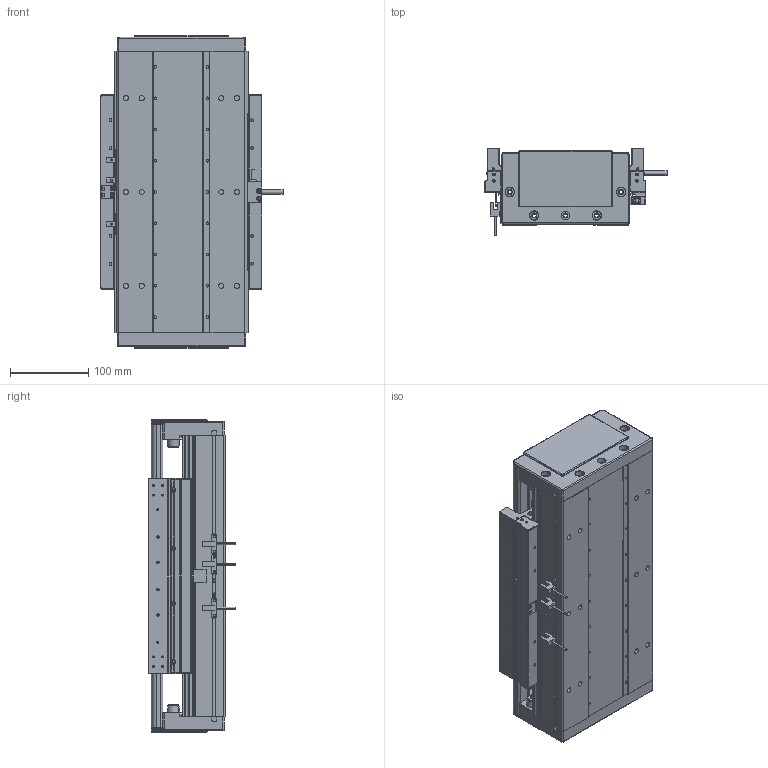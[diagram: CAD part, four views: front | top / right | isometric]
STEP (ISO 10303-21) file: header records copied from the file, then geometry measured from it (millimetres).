
FILE_DESCRIPTION (( 'STEP AP203' ), '1' );
FILE_NAME ('DA-C165-C3-T60-C010-0.2 直线电机.STEP', '2023-06-13T08:37:01', ( '微软用户' ), ( '微软中国' ), 'SwSTEP 2.0', 'SolidWorks 2019', '' );
FILE_SCHEMA (( 'CONFIG_CONTROL_DESIGN' ));
Length unit declared in the file: millimetre
Products named in the file (15): 复件 六角薄螺母 M3^DA-C165-C3-T-C010-0.2-N 直线电机_GB_FASTENER_NUT_STNAB M3-C; 复件 CU165 底座^IU-CU165-L 底座导轨_L360; 复件 DA95-HXJ-00 缓冲橡胶^DA-C165-C3-T-C010-0.2-N 直线电机; 葩璃 CKM03-W075-C1C2-TP-3.0^DA-C165-C3-T-C010-0.2-N 眻盄萇儂; 复件 DA165-DG-H-N-00 端盖^DA-C165-C3-T-C010-0.2-N 直线电机; 葩璃 PM-T45^DA-C165-C3-T-C010-0.2-N 眻盄萇儂; 葩璃 CKM01-W075-TRL^DA-C165-C3-T-C010-0.2-N 眻盄萇儂; 葩璃 DA95-GT-T-00^IU-CU165-L 菁釱絳寢_T; 复件 DMA-010-0.2 读数头^DA-C165-C3-T-C010-0.2-N 直线电机; 复件 DA165-T-002-00 盖板^DA-C165-C3-T-C010-0.2-N 直线电机_0840-002-00; IU-CU165-L 菁釱絳寢; 复件 XD-U-02L 磁栅尺^DA-C165-C3-T-C010-0.2-N 直线电机_T; 复件 DA165-GYP-00 光电感应片^DA-C165-C3-T-C010-0.2-N 直线电机; DA-C165-C3-T60-C010-0.2 眻盄萇儂; 珨极趙賑雄怢啣C3-wf
Assembly tree (30 placements, depth 3):
  DA-C165-C3-T60-C010-0.2 眻盄萇儂
    IU-CU165-L 菁釱絳寢
      复件 CU165 底座^IU-CU165-L 底座导轨_L360
      葩璃 DA95-GT-T-00^IU-CU165-L 菁釱絳寢_T  x4
    复件 DA165-DG-H-N-00 端盖^DA-C165-C3-T-C010-0.2-N 直线电机  x2
    复件 DA95-HXJ-00 缓冲橡胶^DA-C165-C3-T-C010-0.2-N 直线电机  x4
    复件 DA165-T-002-00 盖板^DA-C165-C3-T-C010-0.2-N 直线电机_0840-002-00
    复件 XD-U-02L 磁栅尺^DA-C165-C3-T-C010-0.2-N 直线电机_T
    葩璃 PM-T45^DA-C165-C3-T-C010-0.2-N 眻盄萇儂  x3
    葩璃 CKM01-W075-TRL^DA-C165-C3-T-C010-0.2-N 眻盄萇儂
    复件 DA165-GYP-00 光电感应片^DA-C165-C3-T-C010-0.2-N 直线电机
    复件 DMA-010-0.2 读数头^DA-C165-C3-T-C010-0.2-N 直线电机
    葩璃 CKM03-W075-C1C2-TP-3.0^DA-C165-C3-T-C010-0.2-N 眻盄萇儂
    复件 六角薄螺母 M3^DA-C165-C3-T-C010-0.2-N 直线电机_GB_FASTENER_NUT_STNAB M3-C  x8
    珨极趙賑雄怢啣C3-wf
Bounding box: 233 x 111.45 x 400 mm (x, y, z)
Volume: 4708454 mm3; surface area: 1095898 mm2
Topology: 68 solids, 118 shells, 3211 faces, 8208 edges, 5018 vertices
Faces by surface type: cylinder 1450, plane 1151, cone 552, torus 54, sphere 4
Entity records: 87741 total; most frequent: CARTESIAN_POINT 18472, DIRECTION 14608, ORIENTED_EDGE 13470, EDGE_CURVE 6735, AXIS2_PLACEMENT_3D 5494, VERTEX_POINT 4306, LINE 3620, VECTOR 3620
